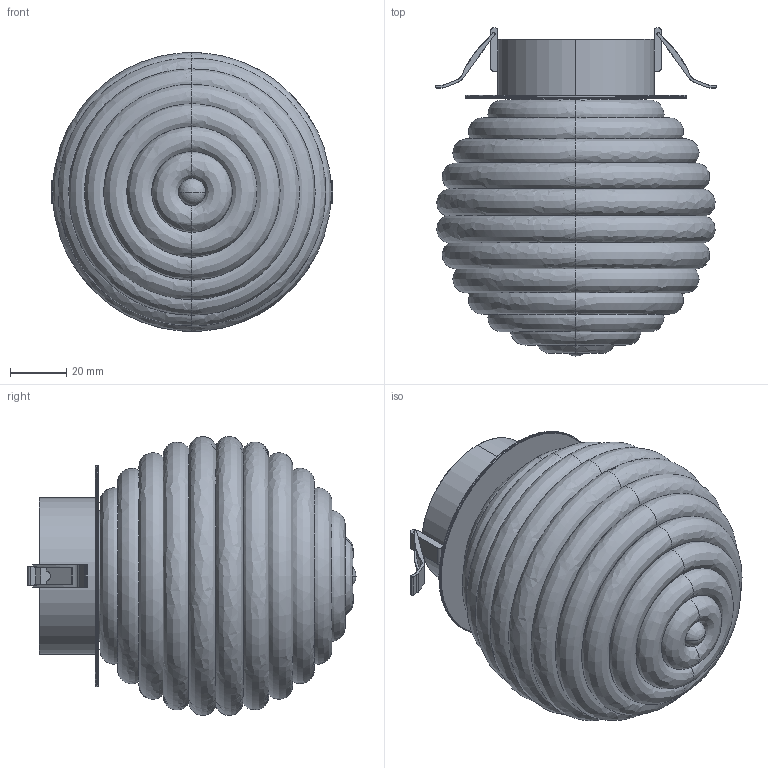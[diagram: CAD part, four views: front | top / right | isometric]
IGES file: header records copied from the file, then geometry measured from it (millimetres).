
Start section: SolidWorks IGES file using analytic representation for surfaces
Global section: file name: C:\Users\Agustin\Desktop\ANGELA\2026\ARQUITECTURAL\DOUL\3D\DOUL_TR1310.IGS; native system: SolidWorks 2023; preprocessor: SolidWorks 2023; author: Agustin; date: 260428.090731; units: millimetre
Bounding box: 100.36 x 117.1 x 99.49 mm (x, y, z)
Surface area: 77943.3 mm2 (no closed solid volume)
Topology: 0 solids, 0 shells, 131 faces, 1652 edges, 1651 vertices
Faces by surface type: bspline 87, revolution 44
